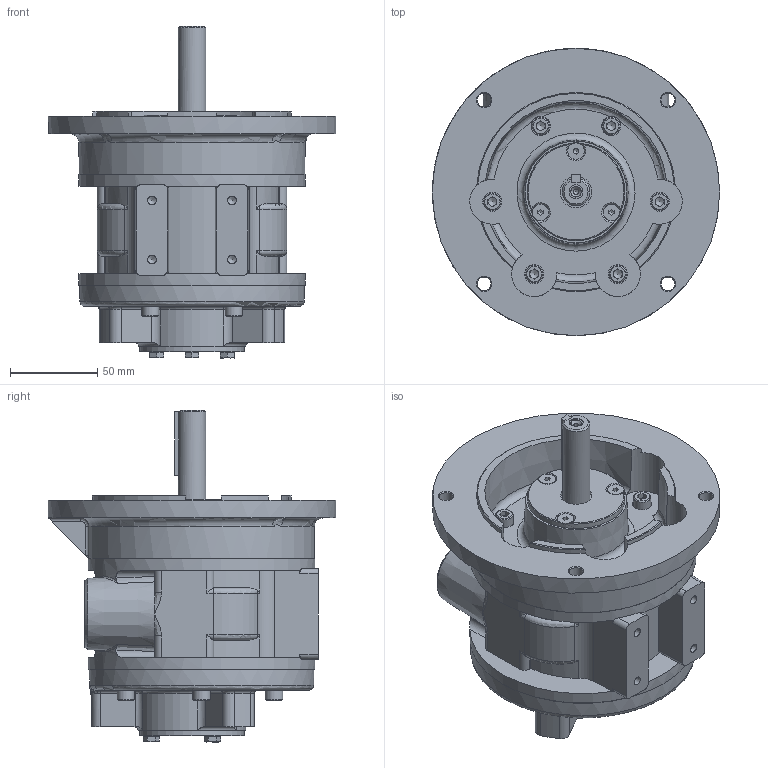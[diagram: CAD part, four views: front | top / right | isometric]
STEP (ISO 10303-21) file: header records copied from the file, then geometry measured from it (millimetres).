
FILE_DESCRIPTION (( 'STEP AP214' ), '1' );
FILE_NAME ('VA6C Defeature.STEP', '2022-06-14T09:42:50', ( '' ), ( '' ), 'SwSTEP 2.0', 'SolidWorks 2020', '' );
FILE_SCHEMA (( 'AUTOMOTIVE_DESIGN' ));
Length unit declared in the file: millimetre
Products named in the file (1): VA6C Defeature
Bounding box: 165 x 165 x 190.64 mm (x, y, z)
Volume: 1347153.1 mm3; surface area: 135921.5 mm2
Topology: 1 solids, 1 shells, 614 faces, 1518 edges, 929 vertices
Faces by surface type: plane 326, cylinder 129, cone 80, torus 39, bspline 33, sphere 7
Full cylindrical faces by diameter (mm): 3 x1, 5 x4, 7.937 x3, 7.938 x1, 8 x4, 9.64 x3, 10 x12, 11 x6, 15.875 x1, 18 x1, 24.117 x2, 28 x1, 56 x1, 60 x1, 128 x2, 129 x1, 130 x2, 165 x1
Entity records: 25486 total; most frequent: CARTESIAN_POINT 9359, DIRECTION 2762, ORIENTED_EDGE 2726, EDGE_CURVE 1363, AXIS2_PLACEMENT_3D 1063, VERTEX_POINT 874, EDGE_LOOP 745, FACE_OUTER_BOUND 662
